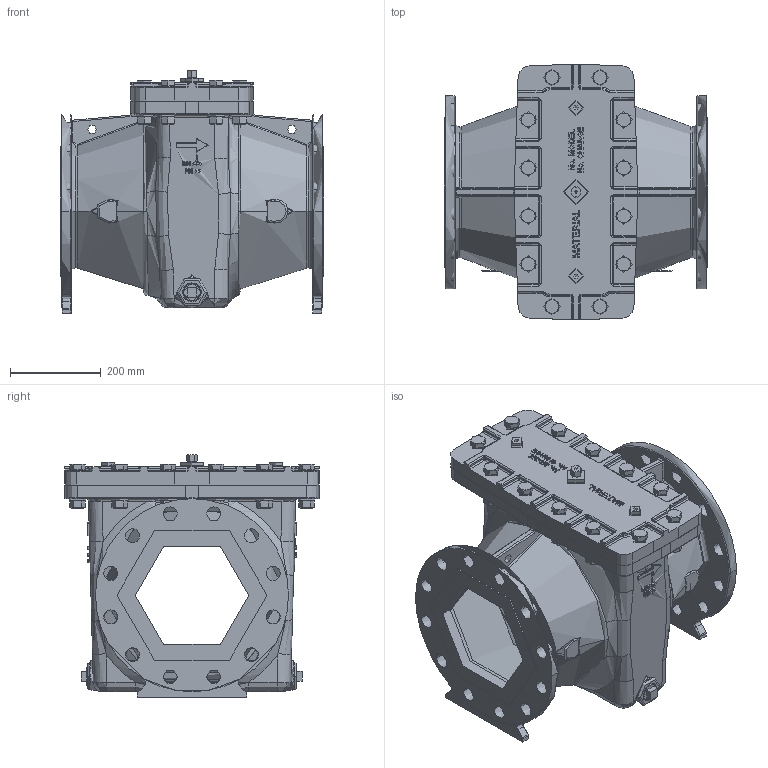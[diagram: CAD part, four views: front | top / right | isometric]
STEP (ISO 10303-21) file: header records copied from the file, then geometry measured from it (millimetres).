
FILE_DESCRIPTION(/* description */ ('AQUA 90-501'),/* implementation_level */ '2;1');
FILE_NAME(/* name */ 'G:\Doc_Liberes\SymbolesCAD\Modeles_3D\FichierSTP\Aqua\Aqua90501\FAB250-25RF.stp',/* time_stamp */ '2019-09-03T16:50:37+02:00',/* author */ ('sylvain'),/* organization */ (''),/* preprocessor_version */ 'ST-DEVELOPER v18',/* originating_system */ 'Autodesk Inventor 2020',/* authorisation */ '');
FILE_SCHEMA (('AUTOMOTIVE_DESIGN { 1 0 10303 214 3 1 1 }'));
Products named in the file (10): FAB25025; 205246-01J; 205245-01K; 57576-02; 57576-07; 57507; BGT7001; ISO 4014 - M20 x 80; ISO 4032 - M20; ISO 7089 - 20 - 140 HV
Assembly tree (55 placements, depth 3):
  FAB25025
    205246-01J
    205245-01K
    ISO 4014 - M20 x 80  x12
    ISO 4032 - M20  x12
    ISO 7089 - 20 - 140 HV  x24
    57576-02
      57576-07
      57507
    BGT7001  x2
Bounding box: 580 x 560 x 534.5 mm (x, y, z)
Topology: 63 solids, 172 shells, 2636 faces, 6424 edges, 4011 vertices
Faces by surface type: plane 1023, cylinder 832, bspline 446, cone 169, torus 133, sphere 33
Full cylindrical faces by diameter (mm): 0.3 x8, 1.6 x1, 2.3 x1, 6.5 x1, 6.92 x1, 8 x1, 10.11 x2, 14 x1, 17.294 x12, 18.63 x1, 20 x12, 20.955 x1, 21 x24, 22 x12, 28 x2, 28.19 x12, 32 x2, 37 x24, 42 x2, 50 x1
Entity records: 128818 total; most frequent: CARTESIAN_POINT 80992, ORIENTED_EDGE 10622, DIRECTION 8731, EDGE_CURVE 5311, VERTEX_POINT 3299, AXIS2_PLACEMENT_3D 2934, LINE 2863, VECTOR 2863
